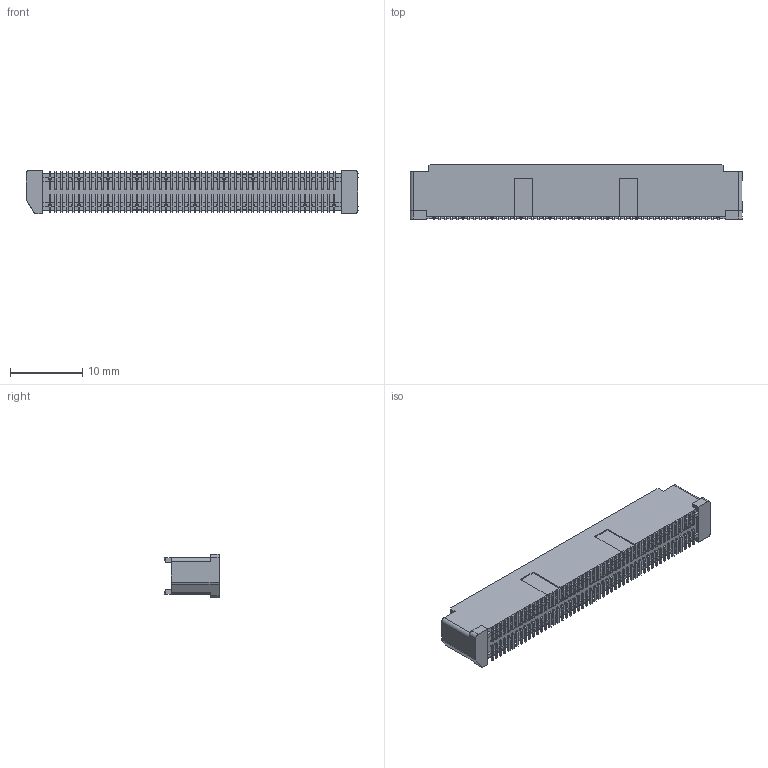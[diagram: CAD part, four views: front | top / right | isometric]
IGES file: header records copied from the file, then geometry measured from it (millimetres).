
Start section: SolidWorks IGES file using analytic representation for surfaces
Global section: file name: D:\RD\品管\3DS\未歸當資料\2381-100C00DN4T\2381-100C00DN4T.IGS; native system: SolidWorks 2011; preprocessor: SolidWorks 2011; author: rd03; date: 150303.183958; units: millimetre
Bounding box: 45.8 x 7.7 x 6 mm (x, y, z)
Surface area: 2614.3 mm2 (no closed solid volume)
Topology: 0 solids, 0 shells, 3907 faces, 21286 edges, 21286 vertices
Faces by surface type: bspline 3482, revolution 425
